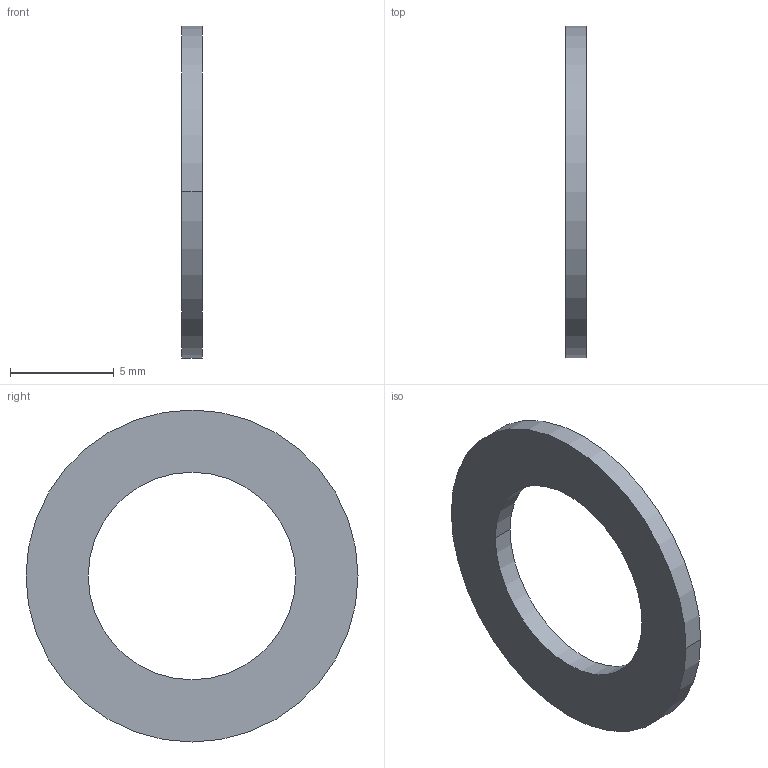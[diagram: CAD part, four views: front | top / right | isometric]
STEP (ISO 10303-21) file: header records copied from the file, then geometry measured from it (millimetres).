
FILE_DESCRIPTION(('3DEXPERIENCE STEP','CAx-IF Rec.Pracs.--- Model Styling and Organization---1.5--- 2016-08-15','CAx-IF Rec.Pracs.---Supplemental Geometry---1.0---2011-11-01','CAx-IF Rec.Pracs.--- Composite Materials ---3.4---2017-06-13','CAx-IF Rec.Pracs.---Tessellated 3D Geometry---1.0---2015-12-17'),'2;1');
FILE_NAME('\\?\D:\School\CarTech\CTU.25\Tutorials\Model\OEM\Copper_Washer.stp','2024-09-26T02:43:44+00:00',('none'),('none'),'3DEXPERIENCE Platform3DEXPERIENCE R2024x HotFix 4.24','3DEXPERIENCE Platform STEP AP242 v3','none');
FILE_SCHEMA(('AP242_MANAGED_MODEL_BASED_3D_ENGINEERING_MIM_LF {1 0 10303 442 1 1 4}'));
Length unit declared in the file: millimetre
Products named in the file (1): ISA_2080
Bounding box: 1 x 16 x 16 mm (x, y, z)
Volume: 122.5 mm3; surface area: 326.7 mm2
Topology: 1 solids, 1 shells, 6 faces, 12 edges, 8 vertices
Faces by surface type: cylinder 4, plane 2
Entity records: 169 total; most frequent: CARTESIAN_POINT 25, ORIENTED_EDGE 24, DIRECTION 20, AXIS2_PLACEMENT_3D 13, EDGE_CURVE 12, CIRCLE 8, EDGE_LOOP 8, VERTEX_POINT 8
